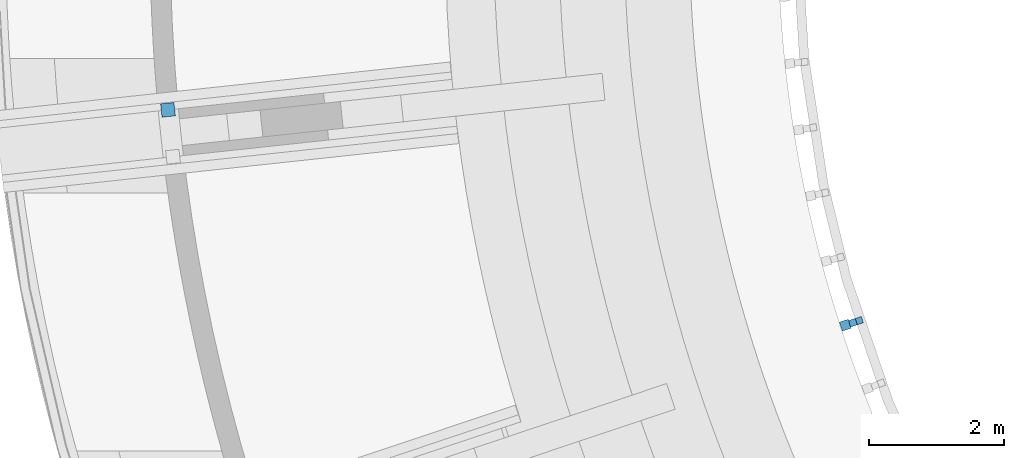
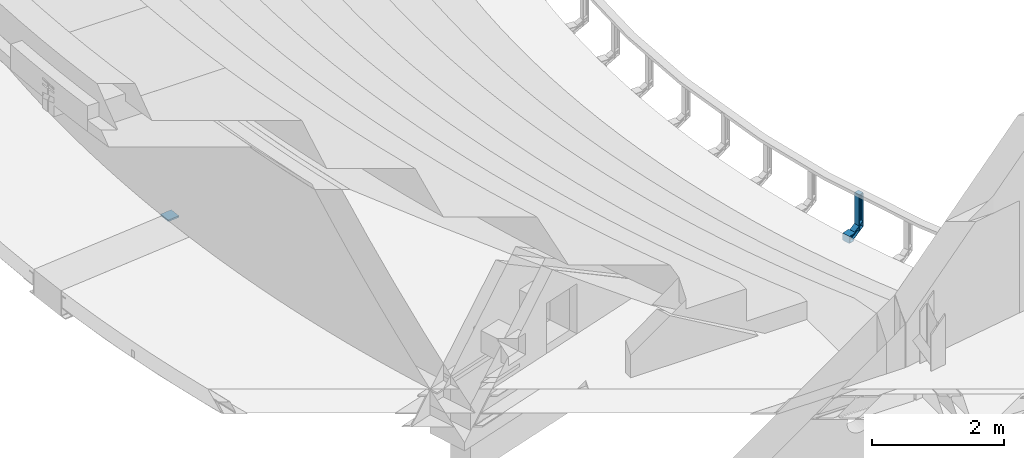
# One storey, part 36 of 68: 2 beams.
"""IFC2X3 building model written with IfcOpenShell, lengths in millimetres."""

from ifc_helpers import new_model, entity, si_unit, converted_unit, derived_unit, direction, frame, frame_2d, origin, place, context, subcontext, project, spatial, rectangle, extrude, faceted_brep, source, transform, mapped, material, type_object, type_shapes, element, save


model = new_model("IFC2X3")

# Units and contexts
model_context = context("Model", 3, precision=0.01, world=origin(), true_north=direction((6.12303176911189e-17, 1.0)))
body_context = subcontext(model_context, "Body", "Model", "MODEL_VIEW")
ifc_project = project(units=[si_unit("LENGTHUNIT", "METRE", prefix="MILLI"), si_unit("AREAUNIT", "SQUARE_METRE", prefix="MILLI"), si_unit("VOLUMEUNIT", "CUBIC_METRE"), converted_unit("PLANEANGLEUNIT", "DEGREE", entity("IfcRatioMeasure", 0.0174532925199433), si_unit("PLANEANGLEUNIT", "RADIAN"), dimensions=[0, 0, 0, 0, 0, 0, 0]), si_unit("MASSUNIT", "GRAM", prefix="KILO"), derived_unit("MASSDENSITYUNIT", [(si_unit("MASSUNIT", "GRAM", prefix="KILO"), 1), (si_unit("LENGTHUNIT", "METRE"), -3)]), derived_unit("MOMENTOFINERTIAUNIT", [(si_unit("LENGTHUNIT", "METRE"), 4)]), si_unit("TIMEUNIT", "SECOND"), si_unit("FREQUENCYUNIT", "HERTZ"), si_unit("THERMODYNAMICTEMPERATUREUNIT", "DEGREE_CELSIUS"), derived_unit("THERMALTRANSMITTANCEUNIT", [(si_unit("MASSUNIT", "GRAM", prefix="KILO"), 1), (si_unit("THERMODYNAMICTEMPERATUREUNIT", "KELVIN"), -1), (si_unit("TIMEUNIT", "SECOND"), -3)]), derived_unit("VOLUMETRICFLOWRATEUNIT", [(si_unit("LENGTHUNIT", "METRE"), 3), (si_unit("TIMEUNIT", "SECOND"), -1)]), si_unit("ELECTRICCURRENTUNIT", "AMPERE"), si_unit("ELECTRICVOLTAGEUNIT", "VOLT"), si_unit("POWERUNIT", "WATT"), si_unit("FORCEUNIT", "NEWTON", prefix="KILO"), si_unit("ILLUMINANCEUNIT", "LUX"), si_unit("LUMINOUSFLUXUNIT", "LUMEN"), si_unit("LUMINOUSINTENSITYUNIT", "CANDELA"), derived_unit("USERDEFINED", [(si_unit("MASSUNIT", "GRAM", prefix="KILO"), -1), (si_unit("LENGTHUNIT", "METRE"), -2), (si_unit("TIMEUNIT", "SECOND"), 3), (si_unit("LUMINOUSFLUXUNIT", "LUMEN"), 1)]), derived_unit("LINEARVELOCITYUNIT", [(si_unit("LENGTHUNIT", "METRE"), 1), (si_unit("TIMEUNIT", "SECOND"), -1)]), si_unit("PRESSUREUNIT", "PASCAL"), derived_unit("USERDEFINED", [(si_unit("LENGTHUNIT", "METRE"), -2), (si_unit("MASSUNIT", "GRAM", prefix="KILO"), 1), (si_unit("TIMEUNIT", "SECOND"), -2)]), derived_unit("LINEARFORCEUNIT", [(si_unit("MASSUNIT", "GRAM", prefix="KILO"), 1), (si_unit("LENGTHUNIT", "METRE"), 1), (si_unit("TIMEUNIT", "SECOND"), -2), (si_unit("LENGTHUNIT", "METRE"), -1)]), derived_unit("PLANARFORCEUNIT", [(si_unit("MASSUNIT", "GRAM", prefix="KILO"), 1), (si_unit("LENGTHUNIT", "METRE"), 1), (si_unit("TIMEUNIT", "SECOND"), -2), (si_unit("LENGTHUNIT", "METRE"), -2)])], contexts=[model_context])

# Site, building, storey
site_placement = place(None, origin())
site = spatial("IfcSite", under=ifc_project, at=site_placement, Name="Theater aan de Parade", CompositionType="ELEMENT")
building_placement = place(site_placement, origin())
building = spatial("IfcBuilding", under=site, at=building_placement, Name="Theater aan de Parade", CompositionType="ELEMENT")
storey_placement = place(building_placement, frame((0.0, 0.0, 8750.0)))
storey = spatial("IfcBuildingStorey", under=building, at=storey_placement, Name="02 tweede verdieping", CompositionType="ELEMENT", Elevation=8750.0)

# Beams
ifc_material_1 = material(Name="00_PBT_MAT_staal")
beam_type_1 = type_object("IfcBeamType", Name="28_PBT_SF_staal_strip:strip 200x30_opgelaste plaat", PredefinedType="NOTDEFINED")
beam_1_placement = place(storey_placement, frame((43881.3592712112, 29760.9927525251, 0.0), z_axis=(0.0, 0.0, 1.0), x_axis=(0.994276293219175, 0.106839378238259, 0.0)))
element("IfcBeam", 1, at=beam_1_placement, inside=storey, type_object=beam_type_1, material=ifc_material_1, Name="28_PBT_SF_staal_strip:strip 200x30_opgelaste plaat", ObjectType="28_PBT_SF_staal_strip:strip 200x30_opgelaste plaat", context=body_context, shape_type="SweptSolid", body=[
    extrude(rectangle(XDim=29.9999999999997, YDim=200.000000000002, at=frame_2d((0.0, -4.76774175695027e-12), x_axis=(1.0, 0.0))), frame((0.0, 0.0, -140.0), z_axis=(1.0, 0.0, 0.0), x_axis=(0.0, 0.0, -1.0)), (0.0, 0.0, 1.0), 200.000000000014),
])
ifc_material_2 = material(Name="00_PBT_MAT_staal_S355")
beam_type_2 = type_object("IfcBeamType", Name="28_PBT_SF_staal_baluster balkon:baluster HEA100", PredefinedType="BEAM", material=ifc_material_2)
shared_shape = source(origin(), body_context, "Body", "Brep", [
    faceted_brep([(50.0, 43.537813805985, 625.0), (50.0, 43.537813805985, 635.0), (50.0, -44.0, 635.0), (50.0, -44.0, 625.0), (-50.0, 43.537813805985, 625.0), (-50.0, -44.0, 625.0), (-50.0, -44.0, 635.0), (-50.0, 43.537813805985, 635.0)], [[[0, 1, 2, 3]], [[4, 5, 6, 7]], [[3, 5, 4, 0]], [[2, 6, 5, 3]], [[1, 7, 6, 2]], [[0, 4, 7, 1]]]),
    faceted_brep([(70.0, -278.0, -133.0), (70.0, -278.0, 0.0), (70.0, -290.0, 0.0), (70.0, -290.0, -133.0), (-70.0, -278.0, -133.0), (-70.0, -290.0, -133.0), (-70.0, -290.0, 0.0), (-70.0, -278.0, 0.0)], [[[0, 1, 2, 3]], [[4, 5, 6, 7]], [[3, 5, 4, 0]], [[2, 6, 5, 3]], [[1, 7, 6, 2]], [[0, 4, 7, 1]]]),
    faceted_brep([(70.0, -278.0, -133.0), (70.0, -278.0, -124.5), (14.7499999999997, -278.0, -124.5), (11.6441714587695, -278.0, -124.091109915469), (8.74999999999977, -278.0, -122.892304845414), (6.26471862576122, -278.0, -120.985281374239), (4.35769515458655, -278.0, -118.5), (3.15889008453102, -278.0, -115.60582854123), (2.74999999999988, -278.0, -112.5), (2.74999999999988, -278.0, -20.5000000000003), (3.15889008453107, -278.0, -17.39417145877), (4.35769515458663, -278.0, -14.5000000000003), (6.26471862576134, -278.0, -12.0147186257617), (8.74999999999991, -278.0, -10.107695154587), (11.6441714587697, -278.0, -8.90889008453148), (14.7499999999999, -278.0, -8.50000000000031), (70.0, -278.0, -8.50000000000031), (70.0, -278.0, 0.0), (-70.0, -278.0, 0.0), (-70.0, -278.0, -8.50000000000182), (-14.7499999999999, -278.0, -8.50000000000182), (-11.6441714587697, -278.0, -8.90889008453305), (-8.74999999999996, -278.0, -10.1076951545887), (-6.26471862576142, -278.0, -12.0147186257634), (-4.35769515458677, -278.0, -14.500000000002), (-3.15889008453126, -278.0, -17.3941714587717), (-2.75000000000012, -278.0, -20.5000000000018), (-2.75000000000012, -278.0, -112.500000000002), (-3.15889008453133, -278.0, -115.605828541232), (-4.3576951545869, -278.0, -118.500000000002), (-6.26471862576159, -278.0, -120.98528137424), (-8.75000000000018, -278.0, -122.892304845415), (-11.6441714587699, -278.0, -124.091109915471), (-14.7500000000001, -278.0, -124.500000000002), (-70.0, -278.0, -124.500000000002), (-70.0, -278.0, -133.0), (70.0, -154.37480362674, -8.50000000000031), (70.0, -151.923048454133, 0.0), (70.0, -190.285805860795, -133.0), (70.0, -187.834050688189, -124.5), (14.7499999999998, -214.852904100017, -8.50000000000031), (14.7499999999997, -154.37480362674, -8.50000000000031), (-70.0, -154.37480362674, -8.50000000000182), (-14.7500000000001, -154.37480362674, -8.50000000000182), (-14.7500000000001, -214.852905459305, -8.50000000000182), (6.43965673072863, -216.327371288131, -11.8433150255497), (2.74999999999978, -217.521904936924, -20.5000000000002), (12.079748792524, -154.461585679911, -8.8008650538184), (9.5433951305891, -154.717580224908, -9.68837358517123), (5.36802221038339, -155.678018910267, -13.0181223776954), (7.26812237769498, -155.129950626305, -11.1180222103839), (2.74999999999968, -157.83610504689, -20.5000000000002), (3.05086505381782, -157.065893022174, -17.8297487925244), (3.9383735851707, -156.334302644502, -15.2933951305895), (2.74999999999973, -184.372749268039, -112.5), (3.93837358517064, -185.874551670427, -117.706604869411), (3.05086505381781, -185.142961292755, -115.170251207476), (5.36802221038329, -186.530835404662, -119.981877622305), (7.26812237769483, -187.078903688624, -121.881977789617), (9.54339513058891, -187.491274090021, -123.311626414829), (12.0797487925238, -187.747268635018, -124.199134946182), (14.7499999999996, -187.834050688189, -124.5), (-14.7500000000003, -187.83405068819, -124.500000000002), (-70.0, -187.83405068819, -124.500000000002), (-70.0, -190.285805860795, -133.0), (-70.0, -151.923048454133, 0.0), (-9.54339513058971, -187.491274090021, -123.311626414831), (-12.0797487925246, -187.747268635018, -124.199134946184), (-7.2681223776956, -187.078903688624, -121.881977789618), (-5.36802221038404, -186.530835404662, -119.981877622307), (-3.93837358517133, -185.874551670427, -117.706604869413), (-3.05086505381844, -185.142961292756, -115.170251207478), (-2.75000000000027, -184.37274926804, -112.500000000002), (-2.75000000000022, -217.521899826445, -20.500000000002), (-2.75000000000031, -157.83610504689, -20.500000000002), (-6.43965718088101, -216.327373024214, -11.8433145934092), (-3.05086505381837, -157.065893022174, -17.8297487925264), (-3.93837358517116, -156.334302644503, -15.2933951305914), (-7.2681223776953, -155.129950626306, -11.1180222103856), (-5.36802221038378, -155.678018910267, -13.0181223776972), (-12.0797487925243, -154.461585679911, -8.80086505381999), (-9.54339513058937, -154.717580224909, -9.68837358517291)], [[[0, 1, 2, 3, 4, 5, 6, 7, 8, 9, 10, 11, 12, 13, 14, 15, 16, 17, 18, 19, 20, 21, 22, 23, 24, 25, 26, 27, 28, 29, 30, 31, 32, 33, 34, 35]], [[36, 37, 17, 16]], [[38, 39, 1, 0]], [[36, 16, 15, 40, 41]], [[19, 42, 43, 44, 20]], [[13, 45, 14]], [[12, 45, 13]], [[46, 45, 11]], [[47, 41, 40]], [[14, 40, 15]], [[45, 12, 11]], [[48, 47, 40]], [[49, 50, 45]], [[10, 9, 46]], [[40, 45, 48]], [[11, 10, 46]], [[46, 51, 52]], [[53, 46, 52]], [[46, 53, 45]], [[45, 53, 49]], [[45, 50, 48]], [[14, 45, 40]], [[54, 51, 46, 9, 8]], [[7, 6, 55]], [[8, 7, 56]], [[56, 54, 8]], [[57, 55, 6]], [[56, 7, 55]], [[6, 5, 57]], [[58, 5, 4]], [[59, 4, 3]], [[60, 3, 2]], [[59, 58, 4]], [[61, 60, 2]], [[59, 3, 60]], [[5, 58, 57]], [[39, 61, 2, 1]], [[62, 63, 34, 33]], [[38, 0, 35, 64]], [[64, 35, 34, 63]], [[42, 19, 18, 65]], [[32, 31, 66]], [[33, 32, 67]], [[67, 62, 33]], [[68, 66, 31]], [[67, 32, 66]], [[31, 30, 68]], [[69, 30, 29]], [[70, 29, 28]], [[71, 28, 27]], [[70, 69, 29]], [[72, 71, 27]], [[70, 28, 71]], [[30, 69, 68]], [[72, 27, 26, 73, 74]], [[25, 24, 73]], [[24, 23, 75]], [[75, 22, 21]], [[76, 74, 73]], [[75, 23, 22]], [[73, 77, 76]], [[78, 79, 75]], [[44, 80, 81]], [[73, 75, 77]], [[25, 73, 26]], [[21, 44, 75]], [[21, 20, 44]], [[43, 80, 44]], [[44, 81, 75]], [[78, 75, 81]], [[75, 79, 77]], [[73, 24, 75]], [[37, 65, 18, 17]], [[39, 38, 64, 63, 62, 67, 66, 68, 69, 70, 71, 72, 74, 76, 77, 79, 78, 81, 80, 43, 42, 65, 37, 36, 41, 47, 48, 50, 49, 53, 52, 51, 54, 56, 55, 57, 58, 59, 60, 61]]]),
    faceted_brep([(50.0, 48.0, 106.188021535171), (50.0, 48.0, 115.425625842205), (50.0, -151.923048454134, 0.0), (50.0, -155.119944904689, -11.0833333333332), (50.0, 48.0, 4.57437415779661), (50.0, 48.0, 13.8119784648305), (50.0, -187.08890941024, -121.916666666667), (50.0, -190.285805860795, -133.0), (14.4999999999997, -155.119944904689, -11.0833333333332), (14.4999999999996, -56.7511342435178, 45.7099259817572), (14.4999999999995, -4.37557443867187, 75.9489695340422), (14.4999999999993, 48.0, 106.188021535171), (-50.0, -155.119944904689, -11.0833333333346), (-50.0, 48.0, 106.188021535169), (-14.5000000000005, 48.0, 106.188021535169), (-14.5000000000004, -4.37556718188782, 75.9489737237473), (-14.5000000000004, -56.7511343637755, 45.7099259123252), (-14.5000000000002, -155.119944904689, -11.0833333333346), (9.9077988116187, -155.484968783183, -12.348836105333), (6.13940978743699, -85.6560198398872, 25.1051305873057), (12.1589161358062, -155.212086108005, -11.4027780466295), (2.49999999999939, -4.37556820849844, 62.0925666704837), (2.49999999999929, 48.0, 92.3316150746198), (2.80086505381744, 48.0, 95.4149555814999), (6.04197655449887, -10.2229142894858, 68.5459327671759), (2.49999999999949, -55.1641531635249, 32.769763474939), (2.73057663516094, -158.979764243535, -24.4649567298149), (2.49999999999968, -159.915289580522, -27.7083333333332), (2.49999999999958, -107.539721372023, 2.53071507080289), (7.83315720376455, -155.92810620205, -13.8851510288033), (11.8297487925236, 48.0, 105.840612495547), (4.52236465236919, -157.25113882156, -18.4719782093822), (3.41344560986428, -158.0801906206, -21.3462212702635), (5.11802221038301, 48.0, 100.970943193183), (7.01812237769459, 48.0, 103.164989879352), (3.68837358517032, 48.0, 98.3436845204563), (9.29339513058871, 48.0, 104.815805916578), (6.01471862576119, -156.524468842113, -15.9526830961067), (2.49999999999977, -182.293564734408, -105.291666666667), (2.49999999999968, -129.917998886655, -75.052619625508), (2.49999999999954, -56.7511354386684, -32.8097113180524), (2.49999999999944, -4.3755695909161, -2.57066427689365), (2.49999999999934, 48.0, 27.6683849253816), (6.01471862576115, -185.684385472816, -117.047316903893), (6.30956465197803, -103.743785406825, -70.0679088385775), (4.52236465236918, -184.957715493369, -114.528021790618), (7.83315720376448, -186.280748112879, -119.114848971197), (9.90779881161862, -186.723885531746, -120.651163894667), (14.4999999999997, -134.713341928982, -91.677618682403), (12.1589161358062, -186.996768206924, -121.597221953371), (14.4999999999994, -4.37556748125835, -16.4270695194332), (5.87838992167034, -26.389988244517, -24.9186641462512), (14.4999999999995, -69.5444547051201, -54.0523441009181), (5.11802221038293, 48.0, 19.0290568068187), (3.4134456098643, -184.128663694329, -111.653778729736), (2.80086505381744, 48.0, 24.5850444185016), (3.68837358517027, 48.0, 21.6563154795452), (14.4999999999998, -187.08890941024, -121.916666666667), (7.01812237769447, 48.0, 16.8350101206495), (9.29339513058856, 48.0, 15.1841940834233), (2.73057663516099, -183.229090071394, -108.535043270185), (11.8297487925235, 48.0, 14.1593875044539), (14.4999999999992, 48.0, 13.8119784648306), (-50.0, -187.088909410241, -121.916666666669), (-14.5000000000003, -187.088909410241, -121.916666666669), (-14.5000000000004, -134.713341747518, -91.6776185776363), (-14.5000000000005, -69.544456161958, -54.0523449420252), (-14.5000000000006, -4.37556766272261, -16.427069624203), (-14.5000000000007, 48.0, 13.8119784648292), (-50.0, 48.0, 13.8119784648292), (-50.0, -190.285805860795, -133.0), (-50.0, 48.0, 4.57437415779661), (-50.0, -151.923048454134, 0.0), (-50.0, 48.0, 115.425625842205), (-6.30956482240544, -103.743788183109, -70.0679106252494), (-4.52236465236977, -184.95771549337, -114.52802179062), (-3.41344560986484, -184.128663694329, -111.653778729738), (-2.50000000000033, -129.917995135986, -75.0526174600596), (-5.87838988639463, -26.3899865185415, -24.9186631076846), (-7.01812237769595, 48.0, 16.835010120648), (-9.29339513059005, 48.0, 15.1841940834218), (-6.01471862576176, -185.684385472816, -117.047316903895), (-7.8331572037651, -186.28074811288, -119.114848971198), (-11.829748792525, 48.0, 14.1593875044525), (-2.50000000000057, -4.37556959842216, -2.57066428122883), (-5.11802221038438, 48.0, 19.0290568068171), (-2.7305766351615, -183.229090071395, -108.535043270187), (-2.50000000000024, -182.293564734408, -105.291666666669), (-9.90779881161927, -186.723885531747, -120.651163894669), (-12.1589161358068, -186.996768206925, -121.597221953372), (-2.50000000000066, 48.0, 27.6683849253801), (-2.80086505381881, 48.0, 24.5850444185), (-2.50000000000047, -56.7511295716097, -32.809707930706), (-3.68837358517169, 48.0, 21.6563154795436), (-2.50000000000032, -159.915289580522, -27.708333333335), (-2.50000000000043, -107.539724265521, 2.53071340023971), (-2.50000000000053, -55.1641511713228, 32.7697646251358), (-2.50000000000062, -4.37556531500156, 62.0925683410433), (-2.50000000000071, 48.0, 92.3316150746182), (-2.73057663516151, -158.979764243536, -24.464956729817), (-11.8297487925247, 48.0, 105.840612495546), (-7.83315720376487, -155.92810620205, -13.885151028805), (-6.13940988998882, -85.6560228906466, 25.1051289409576), (-6.01471862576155, -156.524468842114, -15.9526830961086), (-6.04197656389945, -10.2229155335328, 68.5459320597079), (-7.0181223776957, 48.0, 103.16498987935), (-5.11802221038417, 48.0, 100.970943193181), (-9.90779881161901, -155.484968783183, -12.3488361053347), (-4.52236465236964, -157.25113882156, -18.4719782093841), (-3.68837358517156, 48.0, 98.3436845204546), (-2.80086505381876, 48.0, 95.4149555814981), (-12.1589161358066, -155.212086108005, -11.402778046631), (-3.41344560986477, -158.080190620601, -21.3462212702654), (-9.29339513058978, 48.0, 104.815805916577)], [[[0, 1, 2, 3]], [[4, 5, 6, 7]], [[0, 3, 8, 9, 10, 11]], [[12, 13, 14, 15, 16, 17]], [[18, 19, 20]], [[21, 22, 23]], [[24, 25, 21]], [[26, 27, 28]], [[19, 18, 29]], [[25, 19, 28]], [[9, 24, 10]], [[20, 9, 8]], [[19, 9, 20]], [[19, 24, 9]], [[25, 24, 19]], [[30, 11, 10]], [[28, 31, 32]], [[24, 33, 34]], [[33, 24, 35]], [[35, 24, 21]], [[36, 24, 34]], [[28, 32, 26]], [[31, 19, 37]], [[30, 10, 36]], [[31, 28, 19]], [[35, 21, 23]], [[36, 10, 24]], [[37, 19, 29]], [[27, 38, 39, 40, 41, 42, 22, 21, 25, 28]], [[43, 44, 45]], [[46, 47, 48]], [[48, 47, 49]], [[50, 51, 52]], [[53, 41, 51]], [[54, 45, 44]], [[55, 42, 41]], [[55, 41, 56]], [[49, 57, 48]], [[40, 39, 44]], [[58, 53, 51]], [[43, 46, 44]], [[51, 59, 58]], [[39, 54, 44]], [[54, 39, 60]], [[40, 44, 51]], [[61, 50, 62]], [[41, 40, 51]], [[44, 48, 52]], [[44, 46, 48]], [[56, 41, 53]], [[39, 38, 60]], [[59, 50, 61]], [[51, 44, 52]], [[51, 50, 59]], [[5, 62, 50, 52, 48, 57, 6]], [[63, 64, 65, 66, 67, 68, 69]], [[4, 7, 70, 71]], [[71, 70, 63, 69]], [[13, 12, 72, 73]], [[66, 65, 74]], [[75, 76, 74]], [[77, 74, 76]], [[78, 79, 80]], [[81, 74, 82]], [[83, 67, 80]], [[78, 84, 85]], [[86, 87, 77]], [[88, 82, 65]], [[88, 65, 89]], [[84, 90, 91]], [[66, 74, 78]], [[78, 80, 67]], [[92, 78, 74]], [[83, 68, 67]], [[84, 78, 92]], [[93, 84, 91]], [[93, 85, 84]], [[74, 65, 82]], [[78, 85, 79]], [[64, 89, 65]], [[74, 81, 75]], [[74, 77, 92]], [[86, 77, 76]], [[66, 78, 67]], [[94, 95, 96, 97, 98, 90, 84, 92, 77, 87]], [[94, 99, 95]], [[15, 14, 100]], [[101, 102, 103]], [[104, 105, 106]], [[107, 102, 101]], [[103, 102, 108]], [[16, 104, 102]], [[104, 96, 102]], [[102, 95, 108]], [[109, 110, 97]], [[107, 111, 102]], [[96, 104, 97]], [[109, 104, 106]], [[112, 95, 99]], [[16, 15, 104]], [[95, 112, 108]], [[113, 15, 100]], [[16, 102, 111]], [[97, 104, 109]], [[102, 96, 95]], [[113, 104, 15]], [[111, 17, 16]], [[105, 104, 113]], [[110, 98, 97]], [[1, 73, 72, 2]], [[5, 4, 71, 69, 68, 83, 80, 79, 85, 93, 91, 90, 98, 110, 109, 106, 105, 113, 100, 14, 13, 73, 1, 0, 11, 30, 36, 34, 33, 35, 23, 22, 42, 55, 56, 53, 58, 59, 61, 62]], [[3, 2, 72, 12, 17, 111, 107, 101, 103, 108, 112, 99, 94, 87, 86, 76, 75, 81, 82, 88, 89, 64, 63, 70, 7, 6, 57, 49, 47, 46, 43, 45, 54, 60, 38, 27, 26, 32, 31, 37, 29, 18, 20, 8]]]),
    faceted_brep([(50.0, -48.0, 625.0), (50.0, -40.0, 625.0), (14.4999999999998, -40.0, 625.0), (11.3941714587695, -39.5911099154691, 625.0), (8.4999999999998, -38.3923048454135, 625.0), (6.01471862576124, -36.4852813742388, 625.0), (4.10769515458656, -34.0, 625.0), (2.90889008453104, -31.1058285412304, 625.0), (2.49999999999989, -28.0, 625.0), (2.49999999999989, 28.0, 625.0), (2.90889008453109, 31.10582854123, 625.0), (4.10769515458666, 34.0, 625.0), (6.01471862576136, 36.4852813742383, 625.0), (8.49999999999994, 38.392304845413, 625.0), (11.3941714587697, 39.5911099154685, 625.0), (14.4999999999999, 40.0, 625.0), (50.0, 40.0, 625.0), (50.0, 48.0, 625.0), (-50.0, 48.0, 625.0), (-50.0, 40.0, 625.0), (-14.4999999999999, 40.0, 625.0), (-11.3941714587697, 39.5911099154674, 625.0), (-8.49999999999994, 38.3923048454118, 625.0), (-6.01471862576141, 36.4852813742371, 625.0), (-4.10769515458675, 34.0, 625.0), (-2.90889008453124, 31.1058285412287, 625.0), (-2.50000000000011, 28.0, 625.0), (-2.5000000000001, -28.0, 625.0), (-2.90889008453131, -31.1058285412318, 625.0), (-4.10769515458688, -34.0, 625.0), (-6.01471862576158, -36.4852813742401, 625.0), (-8.50000000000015, -38.3923048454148, 625.0), (-11.3941714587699, -39.5911099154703, 625.0), (-14.5000000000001, -40.0, 625.0), (-50.0, -40.0, 625.0), (-50.0, -48.0, 625.0), (50.0, 48.0, 165.0), (50.0, 40.0, -0.0444279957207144), (50.0, 48.0, 4.57437415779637), (50.0, -40.0, -46.2324495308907), (50.0, -48.0, -50.8512516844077), (14.4999999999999, 40.0, 564.521909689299), (14.4999999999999, 40.0, 468.738898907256), (14.4999999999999, 40.0, 390.608336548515), (14.4999999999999, 40.0, 312.477797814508), (14.4999999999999, 40.0, 234.347235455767), (14.4999999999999, 40.0, 156.216673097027), (14.4999999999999, 40.0, 60.4336623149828), (14.4999999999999, 40.0, -0.0444279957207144), (-50.0, 40.0, -0.0444279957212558), (-14.4999999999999, 40.0, -0.0444279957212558), (-14.4999999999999, 40.0, 60.4336769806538), (-14.4999999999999, 40.0, 156.21667900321), (-14.5, 40.0, 234.34724221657), (-14.5, 40.0, 312.477786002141), (-14.5, 40.0, 390.608329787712), (-14.5, 40.0, 468.738893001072), (-14.5, 40.0, 564.521895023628), (6.01471822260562, 36.4852809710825, 534.282851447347), (2.49999999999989, 28.0, 504.043808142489), (2.49999999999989, 28.0, 429.969876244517), (6.38111782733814, 36.8365011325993, 422.595542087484), (9.29339513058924, 38.8116264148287, -0.730535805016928), (5.87838991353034, 36.3467262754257, 83.7445110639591), (7.01812237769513, 37.3819777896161, -1.55594382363), (2.49999999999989, 28.0, 564.521899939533), (5.11802221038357, 35.4818776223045, -2.65296716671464), (11.8297487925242, 39.6991349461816, -0.21813251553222), (6.03175640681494, 36.5022850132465, 273.412504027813), (5.33717277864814, 35.7487158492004, 157.721305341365), (2.49999999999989, 28.0, 113.983560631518), (2.49999999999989, 28.0, 53.5054688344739), (2.49999999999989, 28.0, -6.97263122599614), (2.80086505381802, 30.6702512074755, -5.43096097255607), (6.45584074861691, 36.9045775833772, 351.543056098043), (3.68837358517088, 33.2066048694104, -3.96659650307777), (2.49999999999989, 28.0, 234.939752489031), (2.49999999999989, 28.0, 174.461652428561), (2.49999999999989, 28.0, 332.454810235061), (2.49999999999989, -28.0, 564.521918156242), (2.49999999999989, -28.0, 504.043820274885), (2.49999999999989, -28.0, 443.565722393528), (2.49999999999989, -28.0, 383.08762451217), (2.49999999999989, -28.0, 277.489656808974), (2.49999999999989, -28.0, 171.891689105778), (2.49999999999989, -28.0, 81.6519494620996), (2.49999999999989, -28.0, 21.1738515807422), (2.49999999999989, -28.0, -39.3042463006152), (14.4999999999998, -40.0, 564.521903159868), (14.4999999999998, -40.0, 457.191883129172), (6.01471890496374, -36.4852816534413, 534.282850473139), (14.4999999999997, -40.0, 14.24565628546), (5.87838987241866, -36.3467262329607, 51.4128968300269), (14.4999999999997, -40.0, 74.723753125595), (14.4999999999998, -40.0, 182.053764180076), (7.12980766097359, -37.469966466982, 128.3887480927), (14.4999999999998, -40.0, 373.287829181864), (14.4999999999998, -40.0, 289.383775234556), (5.68142979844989, -36.138354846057, 331.33579860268), (6.48410362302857, -36.9300282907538, 264.631830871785), (5.11802221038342, -35.481877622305, -43.6239103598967), (3.68837358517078, -33.2066048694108, -42.3102810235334), (14.4999999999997, -40.0, -46.2324495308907), (11.8297487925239, -39.6991349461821, -46.058745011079), (9.29339513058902, -38.8116264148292, -45.5463417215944), (7.01812237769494, -37.3819777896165, -44.7209337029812), (5.85986411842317, -36.3275477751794, 197.731198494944), (5.34384824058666, -35.7566026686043, 460.437179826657), (2.80086505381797, -30.6702512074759, -40.8459165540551), (6.59968170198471, -37.0324399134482, 396.193688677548), (-50.0, -40.0, -46.2324495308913), (-14.5000000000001, -40.0, 564.521911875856), (-14.5000000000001, -40.0, 457.191887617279), (-14.5000000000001, -40.0, 373.287826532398), (-14.5000000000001, -40.0, 289.383775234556), (-14.5000000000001, -40.0, 205.479723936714), (-14.5000000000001, -40.0, 121.575662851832), (-14.5000000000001, -40.0, 14.2456483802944), (-14.5000000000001, -40.0, -46.2324495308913), (-50.0, -48.0, -50.8512516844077), (-50.0, 48.0, 165.0), (-50.0, 48.0, 4.57437415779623), (-6.01471845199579, -36.4852812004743, 534.282853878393), (-2.5000000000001, -28.0, 504.043796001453), (-5.34384807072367, -35.7566024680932, 460.437182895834), (-2.5000000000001, -28.0, 564.521907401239), (-9.29339513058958, -38.8116264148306, -45.5463417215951), (-7.01812237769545, -37.3819777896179, -44.720933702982), (-6.37223200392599, -36.8283286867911, 262.824412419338), (-5.68142973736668, -36.1383547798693, 331.33579885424), (-6.59968165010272, -37.0324398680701, 396.193689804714), (-2.5000000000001, -28.0, 383.087610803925), (-11.8297487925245, -39.6991349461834, -46.0587450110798), (-5.11802221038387, -35.4818776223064, -43.6239103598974), (-6.18948395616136, -36.6565191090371, 51.4128959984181), (-3.68837358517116, -33.2066048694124, -42.3102810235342), (-2.5000000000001, -28.0, 21.1738462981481), (-2.80086505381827, -30.6702512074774, -40.8459165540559), (-5.35181665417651, -35.7659990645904, 125.002033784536), (-2.5000000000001, -28.0, 81.6519388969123), (-2.5000000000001, -28.0, -39.304246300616), (-2.5000000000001, -28.0, 277.489641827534), (-2.5000000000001, -28.0, 443.565703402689), (-2.5000000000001, -28.0, 171.891672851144), (-5.88018165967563, -36.3485766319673, 194.135386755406), (-2.50000000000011, 28.0, 564.521898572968), (-2.50000000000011, 28.0, 504.043797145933), (-2.50000000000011, 28.0, 429.969878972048), (-2.50000000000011, 28.0, 332.454826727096), (-2.50000000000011, 28.0, 234.939757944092), (-2.50000000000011, 28.0, 174.461656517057), (-2.50000000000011, 28.0, 113.983555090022), (-2.50000000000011, 28.0, 53.5054536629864), (-2.50000000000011, 28.0, -6.97263122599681), (-5.87838991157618, 36.3467262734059, 83.7445122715), (-9.29339513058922, 38.8116264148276, -0.730535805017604), (-5.33717271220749, 35.7487157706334, 157.721307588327), (-6.01471873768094, 36.4852814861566, 534.282853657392), (-6.38111797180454, 36.8365012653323, 422.595548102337), (-6.45584072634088, 36.9045775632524, 351.543059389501), (-3.688373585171, 33.2066048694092, -3.96659650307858), (-2.80086505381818, 30.6702512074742, -5.43096097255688), (-7.01812237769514, 37.3819777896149, -1.55594382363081), (-5.11802221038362, 35.4818776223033, -2.65296716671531), (-6.03175635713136, 36.5022849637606, 273.412506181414), (-11.8297487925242, 39.6991349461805, -0.218132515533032)], [[[0, 1, 2, 3, 4, 5, 6, 7, 8, 9, 10, 11, 12, 13, 14, 15, 16, 17, 18, 19, 20, 21, 22, 23, 24, 25, 26, 27, 28, 29, 30, 31, 32, 33, 34, 35]], [[36, 17, 16, 37, 38]], [[39, 1, 0, 40]], [[37, 16, 15, 41, 42, 43, 44, 45, 46, 47, 48]], [[19, 49, 50, 51, 52, 53, 54, 55, 56, 57, 20]], [[13, 12, 58]], [[11, 58, 12]], [[58, 42, 41]], [[59, 60, 61]], [[62, 63, 64]], [[65, 11, 10]], [[66, 64, 63]], [[67, 48, 47]], [[45, 68, 69]], [[69, 70, 63]], [[65, 59, 58]], [[46, 63, 47]], [[63, 46, 69]], [[67, 47, 62]], [[41, 15, 14]], [[71, 72, 73]], [[58, 41, 13]], [[44, 74, 68]], [[43, 74, 44]], [[58, 11, 65]], [[13, 41, 14]], [[75, 71, 73]], [[47, 63, 62]], [[71, 63, 70]], [[75, 66, 71]], [[59, 61, 58]], [[63, 71, 66]], [[10, 9, 65]], [[44, 68, 45]], [[69, 76, 77, 70]], [[69, 46, 45]], [[68, 78, 76]], [[74, 60, 78]], [[69, 68, 76]], [[74, 43, 61]], [[60, 74, 61]], [[68, 74, 78]], [[43, 42, 61]], [[58, 61, 42]], [[8, 79, 80, 81, 82, 83, 84, 85, 86, 87, 72, 71, 70, 77, 76, 78, 60, 59, 65, 9]], [[3, 88, 4]], [[88, 89, 90]], [[91, 92, 93]], [[4, 90, 5]], [[92, 86, 85]], [[94, 93, 95]], [[5, 90, 6]], [[96, 97, 98]], [[99, 98, 97]], [[92, 100, 101]], [[90, 80, 79]], [[6, 79, 7]], [[86, 92, 101]], [[91, 102, 103]], [[104, 91, 103]], [[90, 79, 6]], [[92, 105, 100]], [[104, 105, 91]], [[99, 94, 106]], [[90, 4, 88]], [[80, 90, 107]], [[3, 2, 88]], [[101, 108, 86]], [[108, 87, 86]], [[92, 91, 105]], [[79, 8, 7]], [[94, 95, 106]], [[85, 84, 95]], [[107, 90, 89]], [[85, 95, 92]], [[92, 95, 93]], [[106, 95, 84]], [[89, 96, 109]], [[109, 81, 107]], [[81, 109, 82]], [[96, 98, 109]], [[83, 82, 98]], [[84, 83, 106]], [[83, 98, 99]], [[94, 99, 97]], [[83, 99, 106]], [[82, 109, 98]], [[81, 80, 107]], [[89, 109, 107]], [[1, 39, 102, 91, 93, 94, 97, 96, 89, 88, 2]], [[110, 34, 33, 111, 112, 113, 114, 115, 116, 117, 118]], [[119, 40, 0, 35]], [[110, 119, 35, 34]], [[120, 121, 49, 19, 18]], [[122, 31, 30]], [[122, 111, 31]], [[122, 123, 124]], [[122, 125, 123]], [[126, 117, 127]], [[111, 33, 32]], [[31, 111, 32]], [[112, 122, 124]], [[128, 114, 129]], [[130, 131, 129]], [[132, 118, 117]], [[133, 127, 134]], [[29, 122, 30]], [[117, 116, 134]], [[135, 133, 134]], [[135, 136, 137]], [[122, 112, 111]], [[134, 136, 135]], [[134, 138, 139]], [[136, 134, 139]], [[29, 125, 122]], [[140, 137, 136]], [[132, 117, 126]], [[28, 27, 125]], [[134, 127, 117]], [[125, 29, 28]], [[138, 134, 116]], [[131, 141, 129]], [[124, 123, 142]], [[130, 112, 124]], [[113, 129, 114]], [[130, 129, 113]], [[143, 139, 138]], [[116, 115, 144]], [[144, 138, 116]], [[138, 144, 143]], [[128, 141, 144]], [[128, 115, 114]], [[141, 143, 144]], [[141, 128, 129]], [[115, 128, 144]], [[112, 130, 113]], [[130, 142, 131]], [[130, 124, 142]], [[27, 26, 145, 146, 147, 148, 149, 150, 151, 152, 153, 140, 136, 139, 143, 141, 131, 142, 123, 125]], [[22, 21, 57]], [[154, 51, 155]], [[154, 151, 156]], [[146, 145, 157]], [[23, 157, 24]], [[23, 22, 157]], [[158, 55, 159]], [[57, 56, 157]], [[152, 160, 161]], [[52, 154, 156]], [[21, 20, 57]], [[24, 145, 25]], [[25, 145, 26]], [[162, 163, 154]], [[158, 159, 147]], [[157, 145, 24]], [[161, 153, 152]], [[154, 155, 162]], [[152, 151, 154]], [[154, 163, 152]], [[148, 159, 164]], [[51, 50, 165]], [[51, 154, 52]], [[157, 22, 57]], [[152, 163, 160]], [[155, 51, 165]], [[157, 56, 158]], [[157, 158, 146]], [[156, 151, 150, 149]], [[164, 156, 149]], [[164, 54, 53]], [[53, 52, 156]], [[156, 164, 53]], [[54, 159, 55]], [[148, 164, 149]], [[164, 159, 54]], [[147, 159, 148]], [[158, 147, 146]], [[56, 55, 158]], [[120, 18, 17, 36, 38, 121]], [[39, 40, 119, 110, 118, 132, 126, 127, 133, 135, 137, 140, 153, 161, 160, 163, 162, 155, 165, 50, 49, 121, 38, 37, 48, 67, 62, 64, 66, 75, 73, 72, 87, 108, 101, 100, 105, 104, 103, 102]]]),
])
type_shapes(beam_type_2, [shared_shape])
beam_2_placement = place(storey_placement, frame((54256.1319888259, 26639.1441731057, -2040.0), z_axis=(0.0, 0.0, 1.0), x_axis=(0.307091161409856, -0.951680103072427, 0.0)))
element("IfcBeam", 2, at=beam_2_placement, inside=storey, type_object=beam_type_2, material=ifc_material_2, Name="28_PBT_SF_staal_baluster balkon:baluster HEA100", ObjectType="28_PBT_SF_staal_baluster balkon:baluster HEA100", context=body_context, shape_type="MappedRepresentation", body=[
    mapped(shared_shape, transform((0.0, 0.0, 0.0), scale=1.0)),
])

save(model, "model.ifc")
